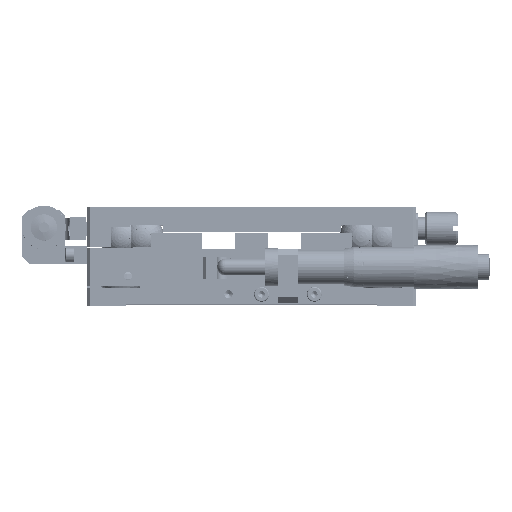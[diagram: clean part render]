
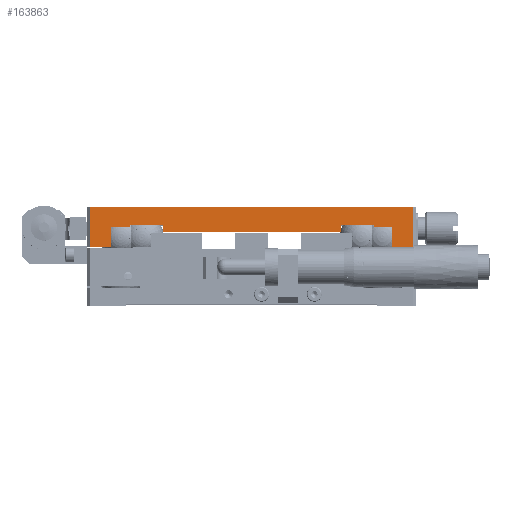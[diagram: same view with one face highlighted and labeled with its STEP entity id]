
A CAD part, top view. The second image highlights one B-rep face of the part: STEP entity #163863.
In plain terms, the highlighted planar face has unit normal (0, 0, 1).
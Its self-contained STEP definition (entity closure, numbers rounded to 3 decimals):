
#1621 = AXIS2_PLACEMENT_3D ( 'NONE', #117381, #199016, #194863 ) ;
#2368 = ORIENTED_EDGE ( 'NONE', *, *, #54539, .T. ) ;
#2865 = CARTESIAN_POINT ( 'NONE',  ( 1., 18., 50. ) ) ;
#4641 = LINE ( 'NONE', #40609, #159539 ) ;
#7451 = CARTESIAN_POINT ( 'NONE',  ( 92.5, 18., 50. ) ) ;
#11299 = ORIENTED_EDGE ( 'NONE', *, *, #113718, .T. ) ;
#12795 = VECTOR ( 'NONE', #201985, 1000. ) ;
#13202 = EDGE_CURVE ( 'NONE', #178433, #65737, #4641, .T. ) ;
#16572 = VECTOR ( 'NONE', #76389, 1000. ) ;
#17387 = VERTEX_POINT ( 'NONE', #37887 ) ;
#18702 = CARTESIAN_POINT ( 'NONE',  ( 23., 22.5, 50. ) ) ;
#19974 = VERTEX_POINT ( 'NONE', #65447 ) ;
#21128 = VECTOR ( 'NONE', #55383, 1000. ) ;
#22953 = EDGE_CURVE ( 'NONE', #19974, #62692, #151819, .T. ) ;
#23297 = CARTESIAN_POINT ( 'NONE',  ( 99., 18., 50. ) ) ;
#23536 = ORIENTED_EDGE ( 'NONE', *, *, #157689, .T. ) ;
#26125 = LINE ( 'NONE', #139635, #136858 ) ;
#33216 = CARTESIAN_POINT ( 'NONE',  ( 99., 30., 50. ) ) ;
#35172 = DIRECTION ( 'NONE',  ( -1., 0., 0. ) ) ;
#35555 = CARTESIAN_POINT ( 'NONE',  ( 23., 24.5, 50. ) ) ;
#37887 = CARTESIAN_POINT ( 'NONE',  ( 99., 18., 50. ) ) ;
#37953 = ORIENTED_EDGE ( 'NONE', *, *, #143554, .F. ) ;
#38217 = VECTOR ( 'NONE', #55118, 1000. ) ;
#40609 = CARTESIAN_POINT ( 'NONE',  ( 23., 22.5, 50. ) ) ;
#41026 = DIRECTION ( 'NONE',  ( 1., 0., 0. ) ) ;
#44566 = ORIENTED_EDGE ( 'NONE', *, *, #102671, .T. ) ;
#45694 = VERTEX_POINT ( 'NONE', #73549 ) ;
#50677 = LINE ( 'NONE', #160006, #126420 ) ;
#53450 = ORIENTED_EDGE ( 'NONE', *, *, #111990, .F. ) ;
#53766 = VECTOR ( 'NONE', #129131, 1000. ) ;
#54187 = LINE ( 'NONE', #168747, #111357 ) ;
#54390 = DIRECTION ( 'NONE',  ( -1., 0., 0. ) ) ;
#54539 = EDGE_CURVE ( 'NONE', #70081, #202913, #187818, .T. ) ;
#55118 = DIRECTION ( 'NONE',  ( 0., 1., 0. ) ) ;
#55383 = DIRECTION ( 'NONE',  ( 1., 0., 0. ) ) ;
#55413 = EDGE_CURVE ( 'NONE', #183843, #80318, #99373, .T. ) ;
#56088 = EDGE_CURVE ( 'NONE', #65737, #69513, #104413, .T. ) ;
#60091 = VECTOR ( 'NONE', #54390, 1000. ) ;
#61500 = CARTESIAN_POINT ( 'NONE',  ( 87., 24.5, 50. ) ) ;
#61584 = DIRECTION ( 'NONE',  ( 0., -1., 0. ) ) ;
#62144 = ORIENTED_EDGE ( 'NONE', *, *, #205755, .F. ) ;
#62440 = DIRECTION ( 'NONE',  ( 1., 0., 0. ) ) ;
#62692 = VERTEX_POINT ( 'NONE', #205822 ) ;
#65432 = VERTEX_POINT ( 'NONE', #7451 ) ;
#65447 = CARTESIAN_POINT ( 'NONE',  ( 13., 24., 50. ) ) ;
#65737 = VERTEX_POINT ( 'NONE', #79173 ) ;
#69513 = VERTEX_POINT ( 'NONE', #104921 ) ;
#70081 = VERTEX_POINT ( 'NONE', #101853 ) ;
#72891 = CARTESIAN_POINT ( 'NONE',  ( 87., 24.5, 50. ) ) ;
#73549 = CARTESIAN_POINT ( 'NONE',  ( 13., 24.5, 50. ) ) ;
#73951 = LINE ( 'NONE', #72891, #100443 ) ;
#76389 = DIRECTION ( 'NONE',  ( 0., -1., 0. ) ) ;
#77507 = VECTOR ( 'NONE', #209477, 1000. ) ;
#78466 = VERTEX_POINT ( 'NONE', #35555 ) ;
#78522 = CARTESIAN_POINT ( 'NONE',  ( 7.3, 18., 50. ) ) ;
#79173 = CARTESIAN_POINT ( 'NONE',  ( 77., 22.5, 50. ) ) ;
#79557 = ORIENTED_EDGE ( 'NONE', *, *, #22953, .F. ) ;
#80318 = VERTEX_POINT ( 'NONE', #168618 ) ;
#80625 = CARTESIAN_POINT ( 'NONE',  ( 92.5, 24., 50. ) ) ;
#88101 = VECTOR ( 'NONE', #154805, 1000. ) ;
#88323 = LINE ( 'NONE', #89404, #60091 ) ;
#89189 = DIRECTION ( 'NONE',  ( 1., 0., 0. ) ) ;
#89404 = CARTESIAN_POINT ( 'NONE',  ( 87., 24., 50. ) ) ;
#89581 = VERTEX_POINT ( 'NONE', #33216 ) ;
#90089 = CARTESIAN_POINT ( 'NONE',  ( 23., 24.5, 50. ) ) ;
#91340 = EDGE_CURVE ( 'NONE', #78466, #178433, #204653, .T. ) ;
#93072 = VECTOR ( 'NONE', #193093, 1000. ) ;
#99373 = LINE ( 'NONE', #2865, #53766 ) ;
#100389 = PLANE ( 'NONE',  #1621 ) ;
#100443 = VECTOR ( 'NONE', #41026, 1000. ) ;
#101853 = CARTESIAN_POINT ( 'NONE',  ( 87., 24.5, 50. ) ) ;
#102216 = EDGE_CURVE ( 'NONE', #17387, #89581, #167581, .T. ) ;
#102671 = EDGE_CURVE ( 'NONE', #80318, #169847, #50677, .T. ) ;
#103783 = CARTESIAN_POINT ( 'NONE',  ( 7.3, 18., 50. ) ) ;
#104413 = LINE ( 'NONE', #169108, #12795 ) ;
#104921 = CARTESIAN_POINT ( 'NONE',  ( 77., 24.5, 50. ) ) ;
#107510 = ORIENTED_EDGE ( 'NONE', *, *, #123371, .T. ) ;
#111093 = ORIENTED_EDGE ( 'NONE', *, *, #102216, .T. ) ;
#111357 = VECTOR ( 'NONE', #89189, 1000. ) ;
#111990 = EDGE_CURVE ( 'NONE', #62692, #169847, #158151, .T. ) ;
#113718 = EDGE_CURVE ( 'NONE', #45694, #78466, #73951, .T. ) ;
#114242 = FACE_OUTER_BOUND ( 'NONE', #181744, .T. ) ;
#115137 = CARTESIAN_POINT ( 'NONE',  ( 87., 24., 50. ) ) ;
#116881 = CARTESIAN_POINT ( 'NONE',  ( 13., 24., 50. ) ) ;
#117381 = CARTESIAN_POINT ( 'NONE',  ( 0., 18., 50. ) ) ;
#117743 = ORIENTED_EDGE ( 'NONE', *, *, #56088, .T. ) ;
#117973 = ORIENTED_EDGE ( 'NONE', *, *, #13202, .T. ) ;
#122343 = DIRECTION ( 'NONE',  ( 1., 0., 0. ) ) ;
#122662 = DIRECTION ( 'NONE',  ( 1., 0., 0. ) ) ;
#123371 = EDGE_CURVE ( 'NONE', #69513, #70081, #54187, .T. ) ;
#126420 = VECTOR ( 'NONE', #62440, 1000. ) ;
#128380 = CARTESIAN_POINT ( 'NONE',  ( 13., 24.5, 50. ) ) ;
#129131 = DIRECTION ( 'NONE',  ( 0., -1., 0. ) ) ;
#132026 = CARTESIAN_POINT ( 'NONE',  ( 92.5, 18., 50. ) ) ;
#132740 = CARTESIAN_POINT ( 'NONE',  ( 1., 30., 50. ) ) ;
#133927 = LINE ( 'NONE', #136027, #21128 ) ;
#135675 = ORIENTED_EDGE ( 'NONE', *, *, #167341, .T. ) ;
#136027 = CARTESIAN_POINT ( 'NONE',  ( 0., 18., 50. ) ) ;
#136858 = VECTOR ( 'NONE', #122662, 1000. ) ;
#139635 = CARTESIAN_POINT ( 'NONE',  ( 0., 30., 50. ) ) ;
#143403 = ORIENTED_EDGE ( 'NONE', *, *, #55413, .T. ) ;
#143554 = EDGE_CURVE ( 'NONE', #65432, #166479, #144790, .T. ) ;
#144790 = LINE ( 'NONE', #132026, #77507 ) ;
#151819 = LINE ( 'NONE', #116881, #200814 ) ;
#154805 = DIRECTION ( 'NONE',  ( 0., -1., 0. ) ) ;
#157689 = EDGE_CURVE ( 'NONE', #65432, #17387, #133927, .T. ) ;
#158151 = LINE ( 'NONE', #78522, #161182 ) ;
#159539 = VECTOR ( 'NONE', #122343, 1000. ) ;
#160006 = CARTESIAN_POINT ( 'NONE',  ( 0., 18., 50. ) ) ;
#161182 = VECTOR ( 'NONE', #61584, 1000. ) ;
#161357 = EDGE_CURVE ( 'NONE', #183843, #89581, #26125, .T. ) ;
#163863 = ADVANCED_FACE ( 'NONE', ( #114242 ), #100389, .T. ) ;
#166479 = VERTEX_POINT ( 'NONE', #80625 ) ;
#167341 = EDGE_CURVE ( 'NONE', #19974, #45694, #177153, .T. ) ;
#167581 = LINE ( 'NONE', #23297, #38217 ) ;
#168618 = CARTESIAN_POINT ( 'NONE',  ( 1., 18., 50. ) ) ;
#168747 = CARTESIAN_POINT ( 'NONE',  ( 87., 24.5, 50. ) ) ;
#169108 = CARTESIAN_POINT ( 'NONE',  ( 77., 24.5, 50. ) ) ;
#169847 = VERTEX_POINT ( 'NONE', #103783 ) ;
#172268 = ORIENTED_EDGE ( 'NONE', *, *, #91340, .T. ) ;
#177153 = LINE ( 'NONE', #128380, #93072 ) ;
#178433 = VERTEX_POINT ( 'NONE', #18702 ) ;
#181744 = EDGE_LOOP ( 'NONE', ( #53450, #79557, #135675, #11299, #172268, #117973, #117743, #107510, #2368, #62144, #37953, #23536, #111093, #196498, #143403, #44566 ) ) ;
#183843 = VERTEX_POINT ( 'NONE', #132740 ) ;
#187818 = LINE ( 'NONE', #61500, #16572 ) ;
#193093 = DIRECTION ( 'NONE',  ( 0., 1., 0. ) ) ;
#194863 = DIRECTION ( 'NONE',  ( 1., 0., 0. ) ) ;
#196498 = ORIENTED_EDGE ( 'NONE', *, *, #161357, .F. ) ;
#199016 = DIRECTION ( 'NONE',  ( 0., 0., 1. ) ) ;
#200814 = VECTOR ( 'NONE', #35172, 1000. ) ;
#201985 = DIRECTION ( 'NONE',  ( 0., 1., 0. ) ) ;
#202913 = VERTEX_POINT ( 'NONE', #115137 ) ;
#204653 = LINE ( 'NONE', #90089, #88101 ) ;
#205755 = EDGE_CURVE ( 'NONE', #166479, #202913, #88323, .T. ) ;
#205822 = CARTESIAN_POINT ( 'NONE',  ( 7.3, 24., 50. ) ) ;
#209477 = DIRECTION ( 'NONE',  ( 0., 1., 0. ) ) ;
